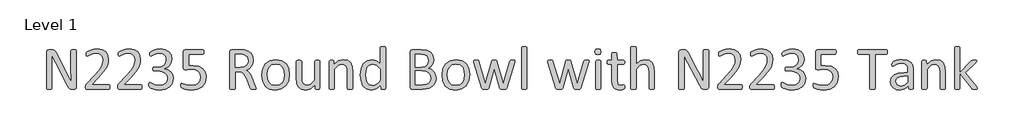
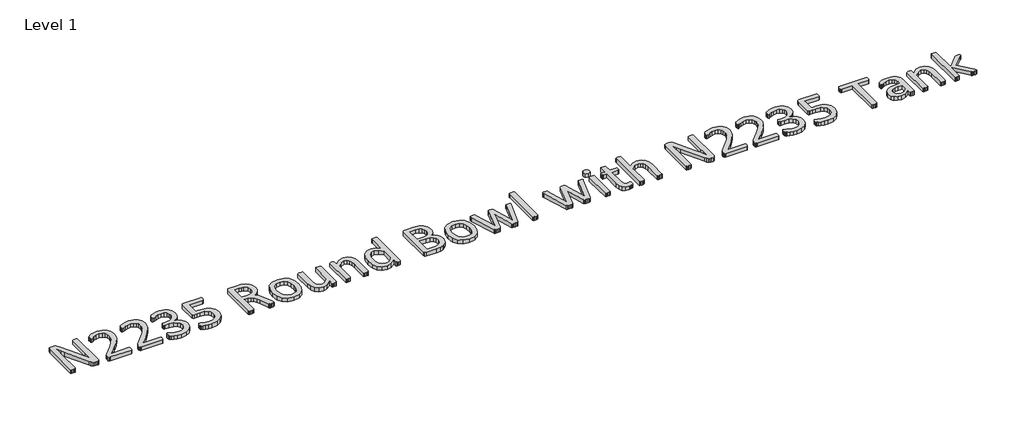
# One storey, part 2 of 2: 1 proxy.
"""IFC4 building model written with IfcOpenShell, lengths in millimetres."""

from ifc_helpers import new_model, si_unit, origin, origin_with_axes, place, context, project, spatial, polyline, outline, extrude, element, save

model = new_model("IFC4")

# Units and contexts
model_context = context("Model", 3, world=origin())
ifc_project = project(units=[si_unit("LENGTHUNIT", "METRE", prefix="MILLI")], contexts=[model_context])

# Site, building, storey
site = spatial("IfcSite", under=ifc_project)
building = spatial("IfcBuilding", under=site)
storey = spatial("IfcBuildingStorey", under=building, Name="Level 1", Elevation=0.0)

# Proxy
placement = place(None, origin())
element("IfcBuildingElementProxy", 1, Name="150MM CALIBRI", ObjectType="150MM CALIBRI", at=placement, inside=storey, context=model_context, shape_type="SweptSolid", body=[
    extrude(outline(polyline([(23872.4540605, -15562.9206541), (23871.6696087, -15566.7980875), (23869.6300339, -15569.4428109), (23866.8060072, -15570.9444758), (23863.7130257, -15571.392734), (23857.0788044, -15571.392734), (23851.6324673, -15570.7427597), (23847.1947111, -15568.3669912), (23843.003497, -15563.6826931), (23838.6105667, -15556.241607), (23794.2330052, -15471.7897627), (23787.2401773, -15458.0730619), (23780.6507818, -15444.132232), (23780.6507818, -15460.9867402), (23780.6507818, -15478.1102033), (23780.6507818, -15567.7170168), (23780.1576978, -15569.2635076), (23778.4991425, -15570.406566), (23775.4285738, -15571.1013662), (23770.5649724, -15571.392734), (23765.6789581, -15571.1013662), (23762.6532152, -15570.406566), (23761.0618986, -15569.2635076), (23760.5688146, -15567.7170168), (23760.5688146, -15430.6844861), (23763.213538, -15424.1623293), (23768.9960687, -15422.2124062), (23778.9025749, -15422.2124062), (23784.7523443, -15422.7951418), (23788.9659714, -15424.6778263), (23792.5744499, -15428.3311306), (23796.1605154, -15434.2257258), (23830.2281384, -15499.4472935), (23836.3244499, -15511.1020066), (23841.9500902, -15522.2860486), (23847.3291886, -15533.1338969), (23852.5962224, -15543.8696808), (23852.439332, -15525.0428365), (23852.3720933, -15506.2159922), (23852.3720933, -15425.8881234), (23854.5237326, -15423.1761613), (23857.5943013, -15422.4365353), (23862.5923802, -15422.2124062), (23867.2990912, -15422.4365353), (23870.3696599, -15423.1761613), (23871.9609765, -15424.3864584), (23872.4540605, -15562.9206541)])), origin_with_axes(), (0.0, 0.0, 1.0), 15.0),
    extrude(outline(polyline([(23998.6835687, -15562.6516992), (23998.3922009, -15566.439481), (23997.607749, -15569.1962689), (23996.2629744, -15570.8548242), (23994.38029, -15571.392734), (23913.3352081, -15571.392734), (23910.5784201, -15570.9893017), (23908.5388453, -15569.6445271), (23907.2837224, -15566.932565), (23906.88029, -15562.6068734), (23907.0595933, -15558.482898), (23907.8216322, -15555.3675035), (23909.3008843, -15552.6555414), (23911.6318269, -15549.786689), (23941.3065195, -15518.5879185), (23957.7800083, -15499.6938355), (23967.3727337, -15484.4754697), (23971.8104898, -15472.0138918), (23972.8638966, -15461.4798242), (23971.2053412, -15451.8870988), (23966.4089785, -15443.9529287), (23958.5420472, -15438.5514174), (23947.6717859, -15436.5566685), (23934.7619499, -15438.3721142), (23924.6985533, -15442.2943734), (23917.4815964, -15446.2166326), (23913.1559048, -15448.0320783), (23910.6456589, -15446.1493939), (23909.9956845, -15443.5046705), (23909.7491425, -15439.5151726), (23909.861207, -15436.668733), (23910.2646394, -15434.5619195), (23911.0042654, -15432.9257771), (23912.842124, -15430.9982668), (23917.5936609, -15427.8380465), (23926.0433279, -15423.9157873), (23937.2721958, -15420.6659154), (23950.137206, -15419.3435537), (23968.9640503, -15422.4141224), (23982.3669703, -15430.8189635), (23990.3235533, -15443.2133027), (23992.9458638, -15458.2523652), (23991.6683279, -15472.4397371), (23986.2668167, -15487.7029287), (23974.3431486, -15505.9694502), (23953.6784458, -15529.1219861), (23929.8311097, -15554.1796193), (23994.2009867, -15554.1796193), (23995.9940195, -15554.7175291), (23997.4732716, -15556.3088457), (23998.3922009, -15558.9535691), (23998.6835687, -15562.6516992)])), origin_with_axes(), (0.0, 0.0, 1.0), 15.0),
    extrude(outline(polyline([(24119.175372, -15562.6516992), (24118.8840042, -15566.439481), (24118.0995523, -15569.1962689), (24116.7547777, -15570.8548242), (24114.8720933, -15571.392734), (24033.8270113, -15571.392734), (24031.0702234, -15570.9893017), (24029.0306486, -15569.6445271), (24027.7755257, -15566.932565), (24027.3720933, -15562.6068734), (24027.5513966, -15558.482898), (24028.3134355, -15555.3675035), (24029.7926876, -15552.6555414), (24032.1236302, -15549.786689), (24061.7983228, -15518.5879185), (24078.2718115, -15499.6938355), (24087.8645369, -15484.4754697), (24092.3022931, -15472.0138918), (24093.3556999, -15461.4798242), (24091.6971445, -15451.8870988), (24086.9007818, -15443.9529287), (24079.0338505, -15438.5514174), (24068.1635892, -15436.5566685), (24055.2537531, -15438.3721142), (24045.1903566, -15442.2943734), (24037.9733996, -15446.2166326), (24033.6477081, -15448.0320783), (24031.1374621, -15446.1493939), (24030.4874878, -15443.5046705), (24030.2409458, -15439.5151726), (24030.3530103, -15436.668733), (24030.7564427, -15434.5619195), (24031.4960687, -15432.9257771), (24033.3339273, -15430.9982668), (24038.0854642, -15427.8380465), (24046.5351312, -15423.9157873), (24057.763999, -15420.6659154), (24070.6290093, -15419.3435537), (24089.4558535, -15422.4141224), (24102.8587736, -15430.8189635), (24110.8153566, -15443.2133027), (24113.4376671, -15458.2523652), (24112.1601312, -15472.4397371), (24106.7586199, -15487.7029287), (24094.8349519, -15505.9694502), (24074.170249, -15529.1219861), (24050.322913, -15554.1796193), (24114.69279, -15554.1796193), (24116.4858228, -15554.7175291), (24117.9650749, -15556.3088457), (24118.8840042, -15558.9535691), (24119.175372, -15562.6516992)])), origin_with_axes(), (0.0, 0.0, 1.0), 15.0),
    extrude(outline(polyline([(24236.7983228, -15529.3461152), (24233.279496, -15547.8815916), (24223.2160994, -15562.0241377), (24207.0339785, -15571.0789533), (24185.293456, -15574.2615865), (24171.5319294, -15573.0288765), (24160.1461712, -15570.0703724), (24151.8982203, -15566.5291326), (24147.7742449, -15563.8844092), (24146.4742962, -15562.2258539), (24145.6898443, -15560.208692), (24145.1743474, -15557.3174267), (24144.9950441, -15553.1486254), (24145.8019089, -15547.2316172), (24148.1328515, -15545.5730619), (24152.234414, -15547.3885076), (24160.1237583, -15551.3107668), (24171.375039, -15555.233026), (24185.6520626, -15557.0484717), (24199.0998085, -15555.0761357), (24208.8270113, -15549.5401469), (24214.7440195, -15541.068067), (24216.7163556, -15530.377109), (24214.1836968, -15518.9241121), (24206.7874365, -15510.1606644), (24194.7965298, -15504.5126111), (24178.6144089, -15502.540275), (24164.1804949, -15502.540275), (24162.3426363, -15502.1816685), (24160.7961456, -15500.9713713), (24159.7427388, -15498.7524933), (24159.3393064, -15495.1440148), (24159.697913, -15491.849317), (24160.7064939, -15489.7200906), (24162.185746, -15488.5546193), (24164.0908433, -15488.1960127), (24177.4489376, -15488.1960127), (24191.501832, -15486.2012638), (24202.0358996, -15480.4411459), (24208.670121, -15471.4535691), (24210.9786507, -15459.7764431), (24209.4321599, -15450.833692), (24204.7926876, -15443.3701931), (24196.8809304, -15438.3721142), (24185.78654, -15436.5566685), (24173.123246, -15438.3721142), (24162.8357203, -15442.2943734), (24155.3498085, -15446.2166326), (24151.1810072, -15448.0320783), (24148.0431999, -15444.2218836), (24147.8638966, -15440.1875599), (24147.9759611, -15437.161817), (24148.4466322, -15434.8757002), (24149.2759099, -15433.1274933), (24150.8448136, -15431.2448088), (24155.3049826, -15428.1070015), (24163.6201722, -15424.0726777), (24175.0283433, -15420.7107412), (24188.9243474, -15419.3435537), (24207.3253464, -15422.0331029), (24220.5265503, -15429.6534922), (24228.4383074, -15441.4426828), (24231.0606179, -15456.6386357), (24229.2003464, -15469.9519041), (24223.7540093, -15480.8445783), (24214.9681486, -15488.9356388), (24202.954829, -15493.5751111), (24216.6491169, -15497.6766736), (24227.3176619, -15505.3643017), (24234.2880769, -15516.1449113), (24236.7983228, -15529.3461152)])), origin_with_axes(), (0.0, 0.0, 1.0), 15.0),
    extrude(outline(polyline([(24360.1589785, -15524.7738816), (24356.1022419, -15545.8196039), (24344.626832, -15561.3517504), (24326.9654591, -15570.9668888), (24304.1715298, -15574.2615865), (24290.9703259, -15573.2754185), (24279.8535226, -15570.8324113), (24271.8521138, -15567.9859717), (24267.8626158, -15565.7670937), (24266.6523187, -15564.2430158), (24266.0023443, -15562.5620476), (24265.5989119, -15560.0742146), (24265.4868474, -15556.4657361), (24265.6661507, -15552.9244963), (24266.3161251, -15550.3694246), (24267.4367706, -15548.9125855), (24272.5245011, -15549.786689), (24279.1587224, -15552.7003672), (24289.4910738, -15555.6588713), (24304.126704, -15557.0484717), (24318.5830308, -15555.233026), (24329.9015503, -15549.517734), (24337.3650492, -15539.7457053), (24340.0770113, -15525.4462689), (24337.8133074, -15512.9398652), (24330.8653054, -15503.9298754), (24318.9864632, -15498.57319), (24301.7957613, -15496.8025701), (24289.6255513, -15497.4973703), (24280.1448904, -15498.1921705), (24275.4830052, -15496.6905056), (24274.0934048, -15490.8855619), (24274.0934048, -15429.7431439), (24275.8864376, -15424.0726777), (24281.0414068, -15422.2124062), (24347.1594908, -15422.2124062), (24348.9525236, -15422.7279031), (24350.3869499, -15424.2743939), (24351.2610533, -15426.9191172), (24351.5524212, -15430.6844861), (24350.4541886, -15437.1394041), (24347.3836199, -15439.4255209), (24294.175372, -15439.4255209), (24294.175372, -15483.2651726), (24302.0423033, -15482.5703724), (24311.2988351, -15482.4583078), (24332.6135124, -15485.4840506), (24347.8094652, -15494.0233693), (24357.0211712, -15507.3814635), (24360.1589785, -15524.7738816)])), origin_with_axes(), (0.0, 0.0, 1.0), 15.0),
    extrude(outline(polyline([(24547.5757306, -15567.7618426), (24547.2395369, -15569.3307463), (24545.7602849, -15570.4738047), (24542.5328259, -15571.1686049), (24536.9968371, -15571.392734), (24532.1332357, -15571.1686049), (24529.08508, -15570.4289789), (24527.3144601, -15569.0169656), (24526.2386404, -15566.7308488), (24512.5667654, -15532.2149676), (24507.6135124, -15521.4119451), (24501.6068525, -15512.9174523), (24493.4261404, -15507.3814635), (24482.0852081, -15505.4091275), (24469.175372, -15505.4091275), (24469.175372, -15567.7618426), (24468.6598751, -15569.3531592), (24467.0237326, -15570.4289789), (24463.9755769, -15571.1013662), (24459.1343884, -15571.392734), (24454.2931999, -15571.1013662), (24451.2002183, -15570.406566), (24449.5640759, -15569.3307463), (24449.0934048, -15567.7170168), (24449.0934048, -15430.2362279), (24451.4019345, -15423.983026), (24456.3551876, -15422.2124062), (24487.4643064, -15422.2124062), (24496.6535994, -15422.503774), (24503.2878208, -15423.1537484), (24518.2820574, -15427.8604594), (24529.2195574, -15436.0635844), (24535.8313658, -15447.4493426), (24538.027831, -15461.5694758), (24536.0779078, -15475.0172217), (24530.4298546, -15485.5288765), (24521.5767552, -15493.4182207), (24510.0116937, -15499.0886869), (24516.6907408, -15503.1454236), (24522.2715554, -15509.017606), (24527.1351568, -15516.8845373), (24531.7522162, -15526.9255209), (24545.0654847, -15559.4242402), (24547.1274724, -15565.1619451), (24547.5757306, -15567.7618426)]), holes=[polyline([(24517.9458638, -15463.7211152), (24514.1132562, -15449.3320271), (24501.2258331, -15440.8599472), (24494.8605667, -15439.7617146), (24485.5367962, -15439.4255209), (24469.175372, -15439.4255209), (24469.175372, -15488.1960127), (24488.1366937, -15488.1960127), (24501.4051363, -15486.3581541), (24510.7289068, -15481.2031849), (24516.1976568, -15473.4259051), (24517.9458638, -15463.7211152)])]), origin_with_axes(), (0.0, 0.0, 1.0), 15.0),
    extrude(outline(polyline([(24672.8638966, -15515.7638918), (24669.5467859, -15539.2750342), (24659.6178669, -15557.7880978), (24643.0771394, -15569.913482), (24620.059081, -15574.2615865), (24597.8703003, -15570.4289789), (24582.0916117, -15559.2897627), (24572.6781896, -15541.5387381), (24569.5852081, -15517.8707053), (24572.8574929, -15494.3595629), (24582.7191732, -15475.8689123), (24599.1926619, -15463.8107668), (24622.2555462, -15459.5074881), (24644.4667398, -15463.3400957), (24660.2454283, -15474.4793119), (24669.7036763, -15492.2303365), (24672.8638966, -15515.7638918)]), holes=[polyline([(24652.7819294, -15517.1086664), (24651.2354386, -15501.5316941), (24646.1477081, -15488.6666838), (24636.5773956, -15479.925649), (24621.4935072, -15476.7206029), (24607.1716578, -15479.6566941), (24597.3099775, -15487.9494707), (24591.5498597, -15500.6351777), (24589.6671753, -15516.6604082), (24591.213666, -15532.3270322), (24596.3462224, -15545.1472166), (24605.9837736, -15553.8434256), (24621.045249, -15557.0484717), (24635.3222726, -15554.1123806), (24645.2511917, -15545.8868426), (24650.9664837, -15533.2459615), (24652.7819294, -15517.1086664)])]), origin_with_axes(), (0.0, 0.0, 1.0), 15.0),
    extrude(outline(polyline([(24787.6179949, -15567.8963201), (24785.6904847, -15570.4962176), (24782.8440451, -15571.1686049), (24778.5631794, -15571.392734), (24773.9909458, -15571.1686049), (24771.2117449, -15570.4962176), (24769.8221445, -15569.420398), (24769.463538, -15554.4037484), (24752.2728361, -15569.5100496), (24735.0821343, -15574.2615865), (24717.9586712, -15570.8099984), (24706.7073904, -15561.463815), (24700.5438402, -15547.7022883), (24698.6835687, -15528.5840763), (24698.6835687, -15465.9175803), (24700.7455564, -15463.2504441), (24703.8833638, -15462.5556439), (24708.7245523, -15462.3763406), (24713.5657408, -15462.5556439), (24716.6363095, -15463.2280312), (24718.2724519, -15464.3486767), (24718.7655359, -15465.9175803), (24718.7655359, -15525.4462689), (24720.0206589, -15539.8129441), (24723.8756794, -15549.02465), (24730.420249, -15554.9416582), (24739.6543679, -15557.0484717), (24753.2141783, -15552.005567), (24767.5360277, -15537.1906336), (24767.5360277, -15465.8727545), (24769.5980154, -15463.2280312), (24772.690997, -15462.5556439), (24777.5770113, -15462.3763406), (24782.4181999, -15462.5556439), (24785.4439427, -15463.2280312), (24787.0800851, -15464.3486767), (24787.6179949, -15465.8727545), (24787.6179949, -15567.8963201)])), origin_with_axes(), (0.0, 0.0, 1.0), 15.0),
    extrude(outline(polyline([(24910.9786507, -15567.8514943), (24910.4855667, -15569.3755722), (24908.8942501, -15570.4738047), (24905.8685072, -15571.1686049), (24900.9824929, -15571.392734), (24896.0068269, -15571.1686049), (24892.9810841, -15570.4962176), (24891.3897675, -15569.420398), (24890.8966835, -15567.8514943), (24890.8966835, -15507.9641992), (24889.5743218, -15493.8888918), (24885.7417142, -15484.6771859), (24879.2195574, -15478.7601777), (24869.9630257, -15476.7206029), (24856.3583894, -15481.7186818), (24842.1261917, -15496.3991377), (24842.1261917, -15567.8514943), (24841.6331076, -15569.420398), (24840.041791, -15570.4962176), (24837.0160482, -15571.1686049), (24832.0403822, -15571.392734), (24827.1543679, -15571.1686049), (24824.0613863, -15570.4962176), (24822.4700697, -15569.420398), (24822.0442244, -15465.8727545), (24823.8596701, -15463.2280312), (24826.6612839, -15462.5556439), (24831.1886917, -15462.3763406), (24835.6264478, -15462.5556439), (24838.3608228, -15463.2280312), (24839.7728361, -15464.3486767), (24840.1986814, -15479.3653263), (24857.3445574, -15464.2814379), (24874.5800851, -15459.5074881), (24891.7035482, -15463.0039021), (24902.954829, -15472.3500855), (24909.1183792, -15486.0443734), (24910.9786507, -15504.9160435), (24910.9786507, -15567.8514943)])), origin_with_axes(), (0.0, 0.0, 1.0), 15.0),
    extrude(outline(polyline([(25034.3393064, -15567.8066685), (25033.9134611, -15569.4428109), (25032.456622, -15570.5410435), (25029.7446599, -15571.1686049), (25025.6430974, -15571.392734), (25021.3846445, -15571.1686049), (25018.6054437, -15570.5858693), (25017.03654, -15569.5772883), (25016.543456, -15555.3450906), (24999.890664, -15569.2635076), (24980.996581, -15574.2615865), (24961.9007818, -15569.8014174), (24949.1030103, -15557.7432719), (24941.9308792, -15539.8577699), (24939.6671753, -15518.2293119), (24942.4912019, -15493.9113047), (24950.8288044, -15475.3982412), (24964.5006794, -15463.6314635), (24983.3723494, -15459.5074881), (24999.6665349, -15463.519399), (25014.2573392, -15475.2861767), (25014.2573392, -15414.4575394), (25014.6831845, -15412.8886357), (25016.3193269, -15411.7231644), (25019.4123085, -15411.0283642), (25024.1638453, -15410.7369963), (25029.1395113, -15411.0283642), (25032.1652542, -15411.7231644), (25033.8013966, -15412.8662228), (25034.3393064, -15414.4127135), (25034.3393064, -15567.8066685)]), holes=[polyline([(25014.2573392, -15495.7267504), (24999.8682511, -15481.5842043), (24985.3895113, -15476.7206029), (24973.5106691, -15480.1273652), (24965.576499, -15489.114942), (24961.1387429, -15501.7558232), (24959.7491425, -15516.0776726), (24960.9146138, -15531.2287996), (24964.9713505, -15544.3627648), (24972.6365656, -15553.5744707), (24984.6274724, -15557.0484717), (24991.6651261, -15556.0398908), (24998.6131281, -15552.7003672), (25006.0318013, -15546.6488816), (25014.2573392, -15537.4595885), (25014.2573392, -15495.7267504)])]), origin_with_axes(), (0.0, 0.0, 1.0), 15.0),
    extrude(outline(polyline([(25223.6835687, -15529.2116377), (25221.9129488, -15541.9869963), (25216.9372828, -15552.521064), (25209.2272419, -15560.701776), (25199.0517808, -15566.6187842), (25186.9263966, -15570.2048498), (25172.1338761, -15571.392734), (25133.4491937, -15571.392734), (25128.4959406, -15569.5997013), (25126.1425851, -15563.3240865), (25126.1425851, -15430.2810537), (25128.5183535, -15424.005439), (25133.5388453, -15422.2124062), (25167.427165, -15422.2124062), (25189.3694037, -15424.7898908), (25203.6016015, -15432.2758027), (25212.185746, -15444.3339482), (25215.0770113, -15460.4936562), (25213.7994755, -15470.7811818), (25210.0565195, -15479.8584103), (25203.8257306, -15487.2994963), (25195.2191732, -15492.6785947), (25206.3359765, -15496.824983), (25215.3459662, -15504.5126111), (25221.4422777, -15515.4276982), (25223.6835687, -15529.2116377)]), holes=[polyline([(25194.9950441, -15463.1832053), (25193.4933792, -15453.2766992), (25188.7866681, -15445.7683744), (25180.4042398, -15441.0616633), (25166.7099519, -15439.4255209), (25146.2245523, -15439.4255209), (25146.2245523, -15488.1960127), (25168.7719396, -15488.1960127), (25181.1886917, -15486.1564379), (25189.0107972, -15480.6876879), (25193.5606179, -15472.6638662), (25194.9950441, -15463.1832053)]), polyline([(25203.6016015, -15529.390941), (25201.494788, -15517.8258795), (25195.3312378, -15509.4434513), (25185.1557767, -15504.288482), (25169.7581076, -15502.540275), (25146.2245523, -15502.540275), (25146.2245523, -15554.1796193), (25174.7785994, -15554.1796193), (25186.56779, -15552.5883027), (25195.4208894, -15547.8815916), (25201.4275492, -15540.1267248), (25203.6016015, -15529.390941)])]), origin_with_axes(), (0.0, 0.0, 1.0), 15.0),
    extrude(outline(polyline([(25349.9130769, -15515.7638918), (25346.5959662, -15539.2750342), (25336.6670472, -15557.7880978), (25320.1263197, -15569.913482), (25297.1082613, -15574.2615865), (25274.9194806, -15570.4289789), (25259.1407921, -15559.2897627), (25249.7273699, -15541.5387381), (25246.6343884, -15517.8707053), (25249.9066732, -15494.3595629), (25259.7683535, -15475.8689123), (25276.2418423, -15463.8107668), (25299.3047265, -15459.5074881), (25321.5159201, -15463.3400957), (25337.2946087, -15474.4793119), (25346.7528566, -15492.2303365), (25349.9130769, -15515.7638918)]), holes=[polyline([(25329.8311097, -15517.1086664), (25328.2846189, -15501.5316941), (25323.1968884, -15488.6666838), (25313.6265759, -15479.925649), (25298.5426876, -15476.7206029), (25284.2208382, -15479.6566941), (25274.3591578, -15487.9494707), (25268.59904, -15500.6351777), (25266.7163556, -15516.6604082), (25268.2628464, -15532.3270322), (25273.3954027, -15545.1472166), (25283.032954, -15553.8434256), (25298.0944294, -15557.0484717), (25312.3714529, -15554.1123806), (25322.300372, -15545.8868426), (25328.015664, -15533.2459615), (25329.8311097, -15517.1086664)])]), origin_with_axes(), (0.0, 0.0, 1.0), 15.0),
    extrude(outline(polyline([(25520.3856691, -15465.6486254), (25520.16154, -15467.5985486), (25519.3546753, -15470.4001623), (25488.9179437, -15567.3135844), (25487.8197111, -15569.3531592), (25485.7577234, -15570.5858693), (25482.1492449, -15571.2134308), (25476.41154, -15571.392734), (25470.4272931, -15571.1686049), (25466.5946855, -15570.4962176), (25464.4654591, -15569.2859205), (25463.4120523, -15567.4032361), (25441.7163556, -15494.9198857), (25421.3654335, -15567.4032361), (25420.2896138, -15569.3979851), (25418.0483228, -15570.6306951), (25414.2157152, -15571.2358437), (25408.4107716, -15571.392734), (25402.583415, -15571.1686049), (25398.9076978, -15570.4962176), (25396.8008843, -15569.2410947), (25395.7698904, -15567.3135844), (25365.557288, -15470.4001623), (25364.7504232, -15467.5985486), (25364.5262941, -15465.6486254), (25364.9745523, -15464.0348959), (25366.5210431, -15463.0039021), (25369.4571343, -15462.4884051), (25373.9397162, -15462.3763406), (25379.1170984, -15462.5556439), (25382.0980154, -15463.1159666), (25383.5772675, -15464.2366121), (25384.3841322, -15466.007232), (25409.307288, -15550.279773), (25432.6167142, -15466.007232), (25433.401166, -15464.2366121), (25434.9476568, -15463.1159666), (25437.7492706, -15462.5556439), (25442.1646138, -15462.3763406), (25446.7144345, -15462.5556439), (25449.5160482, -15463.1159666), (25451.0177132, -15464.1917863), (25451.7125134, -15465.7831029), (25476.41154, -15550.279773), (25501.3346958, -15466.007232), (25502.0743218, -15464.2366121), (25503.6880513, -15463.1159666), (25506.6689683, -15462.5556439), (25511.5549826, -15462.3763406), (25515.9703259, -15462.4884051), (25518.6150492, -15463.0487279), (25519.9822367, -15464.0797217), (25520.3856691, -15465.6486254)])), origin_with_axes(), (0.0, 0.0, 1.0), 15.0),
    extrude(outline(polyline([(25565.0770113, -15567.8514943), (25564.5839273, -15569.3755722), (25562.9926107, -15570.4738047), (25559.9668679, -15571.1686049), (25554.9912019, -15571.392734), (25550.1051876, -15571.1686049), (25547.012206, -15570.4738047), (25545.4208894, -15569.3755722), (25545.4208894, -15414.4127135), (25545.4208894, -15412.798984), (25547.012206, -15411.6559256), (25550.1051876, -15410.9611254), (25554.9912019, -15410.7369963), (25559.9668679, -15410.9611254), (25562.9926107, -15411.6559256), (25564.5839273, -15412.798984), (25565.0770113, -15414.4127135), (25565.0770113, -15567.8514943)])), origin_with_axes(), (0.0, 0.0, 1.0), 15.0),
    extrude(outline(polyline([(25798.6643576, -15465.6486254), (25798.4402285, -15467.5985486), (25797.6333638, -15470.4001623), (25767.1966322, -15567.3135844), (25766.0983996, -15569.3531592), (25764.0364119, -15570.5858693), (25760.4279335, -15571.2134308), (25754.6902285, -15571.392734), (25748.7059816, -15571.1686049), (25744.873374, -15570.4962176), (25742.7441476, -15569.2859205), (25741.6907408, -15567.4032361), (25719.9950441, -15494.9198857), (25699.644122, -15567.4032361), (25698.5683023, -15569.3979851), (25696.3270113, -15570.6306951), (25692.4944037, -15571.2358437), (25686.6894601, -15571.392734), (25680.8621035, -15571.1686049), (25677.1863863, -15570.4962176), (25675.0795728, -15569.2410947), (25674.048579, -15567.3135844), (25643.8359765, -15470.4001623), (25643.0291117, -15467.5985486), (25642.8049826, -15465.6486254), (25643.2532408, -15464.0348959), (25644.7997316, -15463.0039021), (25647.7358228, -15462.4884051), (25652.2184048, -15462.3763406), (25657.3957869, -15462.5556439), (25660.376704, -15463.1159666), (25661.855956, -15464.2366121), (25662.6628208, -15466.007232), (25687.5859765, -15550.279773), (25710.8954027, -15466.007232), (25711.6798546, -15464.2366121), (25713.2263453, -15463.1159666), (25716.0279591, -15462.5556439), (25720.4433023, -15462.3763406), (25724.993123, -15462.5556439), (25727.7947367, -15463.1159666), (25729.2964017, -15464.1917863), (25729.9912019, -15465.7831029), (25754.6902285, -15550.279773), (25779.6133843, -15466.007232), (25780.3530103, -15464.2366121), (25781.9667398, -15463.1159666), (25784.9476568, -15462.5556439), (25789.8336712, -15462.3763406), (25794.2490144, -15462.4884051), (25796.8937378, -15463.0487279), (25798.2609253, -15464.0797217), (25798.6643576, -15465.6486254)])), origin_with_axes(), (0.0, 0.0, 1.0), 15.0),
    extrude(outline(polyline([(25843.3556999, -15567.8963201), (25842.8626158, -15569.420398), (25841.2712992, -15570.4962176), (25838.2455564, -15571.1686049), (25833.2698904, -15571.392734), (25828.3838761, -15571.1686049), (25825.2908945, -15570.4962176), (25823.6995779, -15569.420398), (25823.2737326, -15465.8727545), (25825.2908945, -15463.272857), (25828.3838761, -15462.6004697), (25833.2698904, -15462.3763406), (25838.2455564, -15462.6004697), (25841.2712992, -15463.272857), (25842.8626158, -15464.4159154), (25843.3556999, -15567.8963201)])), origin_with_axes(), (0.0, 0.0, 1.0), 15.0),
    extrude(outline(polyline([(25843.3556999, -15430.6844861), (25840.8902798, -15439.8513662), (25831.7458126, -15442.2943734), (25822.8254744, -15439.9186049), (25820.4048802, -15430.953441), (25822.8703003, -15421.7865609), (25832.0147675, -15419.3435537), (25840.9351056, -15421.7193222), (25843.3556999, -15430.6844861)])), origin_with_axes(), (0.0, 0.0, 1.0), 15.0),
    extrude(outline(polyline([(25932.2901261, -15561.0827955), (25931.8418679, -15566.686023), (25930.4746804, -15569.7341787), (25927.7403054, -15571.5720373), (25923.5939171, -15572.9840506), (25918.640664, -15573.9029799), (25913.418456, -15574.2615865), (25899.7689939, -15572.0875342), (25890.4676363, -15565.5205517), (25885.1781896, -15554.3813355), (25883.5196343, -15538.4457566), (25883.5196343, -15476.7206029), (25869.8925851, -15476.7206029), (25867.2702746, -15475.0396347), (25866.3065195, -15469.5932976), (25866.5754744, -15466.253774), (25867.2702746, -15463.9900701), (25868.4133331, -15462.7349472), (25869.9822367, -15462.3763406), (25883.5196343, -15462.3763406), (25883.5196343, -15437.408359), (25885.5367962, -15434.673984), (25888.6297777, -15433.9119451), (25893.5157921, -15433.687816), (25898.4914581, -15433.9119451), (25901.5172009, -15434.673984), (25903.1085175, -15435.9066941), (25903.6016015, -15462.3763406), (25928.7040605, -15462.3763406), (25931.3487839, -15463.9900701), (25932.065997, -15466.253774), (25932.2901261, -15469.5932976), (25931.3039581, -15475.0396347), (25928.7040605, -15476.7206029), (25903.6016015, -15476.7206029), (25903.6016015, -15535.1734717), (25906.5825185, -15551.512483), (25910.7457165, -15555.6644746), (25917.2734765, -15557.0484717), (25921.7336456, -15556.5329748), (25925.2076466, -15555.4571551), (25927.829957, -15554.3589226), (25929.7798802, -15553.8210127), (25932.065997, -15557.4519041), (25932.2901261, -15561.0827955)])), origin_with_axes(), (0.0, 0.0, 1.0), 15.0),
    extrude(outline(polyline([(26044.175372, -15567.8514943), (26043.682288, -15569.3755722), (26042.0909714, -15570.4738047), (26039.0652285, -15571.1686049), (26034.1792142, -15571.392734), (26029.2035482, -15571.1686049), (26026.1778054, -15570.4962176), (26024.5864888, -15569.420398), (26024.0934048, -15567.8514943), (26024.0934048, -15507.9641992), (26022.7710431, -15493.8888918), (26018.9384355, -15484.6771859), (26012.4162787, -15478.7601777), (26003.159747, -15476.7206029), (25989.5551107, -15481.7186818), (25975.322913, -15496.3991377), (25975.322913, -15567.8514943), (25974.829829, -15569.420398), (25973.2385124, -15570.4962176), (25970.2127695, -15571.1686049), (25965.2371035, -15571.392734), (25960.3510892, -15571.1686049), (25957.2581076, -15570.4738047), (25955.666791, -15569.3755722), (25955.666791, -15414.4127135), (25955.666791, -15412.798984), (25957.2581076, -15411.6559256), (25960.3510892, -15410.9611254), (25965.2371035, -15410.7369963), (25970.2127695, -15410.9611254), (25973.2385124, -15411.6559256), (25974.829829, -15412.8213969), (25975.322913, -15414.4127135), (25975.322913, -15476.451648), (25991.4602081, -15463.6762894), (26007.8216322, -15459.5074881), (26024.9450953, -15463.0039021), (26036.1739632, -15472.3500855), (26042.3151005, -15486.0443734), (26044.175372, -15505.0056951), (26044.175372, -15567.8514943)])), origin_with_axes(), (0.0, 0.0, 1.0), 15.0),
    extrude(outline(polyline([(26247.8638966, -15562.9206541), (26247.0794447, -15566.7980875), (26245.0398699, -15569.4428109), (26242.2158433, -15570.9444758), (26239.1228617, -15571.392734), (26232.4886404, -15571.392734), (26227.0423033, -15570.7427597), (26222.6045472, -15568.3669912), (26218.4133331, -15563.6826931), (26214.0204027, -15556.241607), (26169.6428412, -15471.7897627), (26162.6500134, -15458.0730619), (26156.0606179, -15444.132232), (26156.0606179, -15460.9867402), (26156.0606179, -15478.1102033), (26156.0606179, -15567.7170168), (26155.5675339, -15569.2635076), (26153.9089785, -15570.406566), (26150.8384099, -15571.1013662), (26145.9748085, -15571.392734), (26141.0887941, -15571.1013662), (26138.0630513, -15570.406566), (26136.4717347, -15569.2635076), (26135.9786507, -15567.7170168), (26135.9786507, -15430.6844861), (26138.623374, -15424.1623293), (26144.4059048, -15422.2124062), (26154.3124109, -15422.2124062), (26160.1621804, -15422.7951418), (26164.3758074, -15424.6778263), (26167.9842859, -15428.3311306), (26171.5703515, -15434.2257258), (26205.6379744, -15499.4472935), (26211.7342859, -15511.1020066), (26217.3599263, -15522.2860486), (26222.7390246, -15533.1338969), (26228.0060585, -15543.8696808), (26227.8491681, -15525.0428365), (26227.7819294, -15506.2159922), (26227.7819294, -15425.8881234), (26229.9335687, -15423.1761613), (26233.0041374, -15422.4365353), (26238.0022162, -15422.2124062), (26242.7089273, -15422.4365353), (26245.779496, -15423.1761613), (26247.3708126, -15424.3864584), (26247.8638966, -15562.9206541)])), origin_with_axes(), (0.0, 0.0, 1.0), 15.0),
    extrude(outline(polyline([(26374.0934048, -15562.6516992), (26373.8020369, -15566.439481), (26373.0175851, -15569.1962689), (26371.6728105, -15570.8548242), (26369.7901261, -15571.392734), (26288.7450441, -15571.392734), (26285.9882562, -15570.9893017), (26283.9486814, -15569.6445271), (26282.6935585, -15566.932565), (26282.2901261, -15562.6068734), (26282.4694294, -15558.482898), (26283.2314683, -15555.3675035), (26284.7107203, -15552.6555414), (26287.041663, -15549.786689), (26316.7163556, -15518.5879185), (26333.1898443, -15499.6938355), (26342.7825697, -15484.4754697), (26347.2203259, -15472.0138918), (26348.2737326, -15461.4798242), (26346.6151773, -15451.8870988), (26341.8188146, -15443.9529287), (26333.9518833, -15438.5514174), (26323.081622, -15436.5566685), (26310.1717859, -15438.3721142), (26300.1083894, -15442.2943734), (26292.8914324, -15446.2166326), (26288.5657408, -15448.0320783), (26286.0554949, -15446.1493939), (26285.4055206, -15443.5046705), (26285.1589785, -15439.5151726), (26285.2710431, -15436.668733), (26285.6744755, -15434.5619195), (26286.4141015, -15432.9257771), (26288.2519601, -15430.9982668), (26293.003497, -15427.8380465), (26301.453164, -15423.9157873), (26312.6820318, -15420.6659154), (26325.5470421, -15419.3435537), (26344.3738863, -15422.4141224), (26357.7768064, -15430.8189635), (26365.7333894, -15443.2133027), (26368.3556999, -15458.2523652), (26367.078164, -15472.4397371), (26361.6766527, -15487.7029287), (26349.7529847, -15505.9694502), (26329.0882818, -15529.1219861), (26305.2409458, -15554.1796193), (26369.6108228, -15554.1796193), (26371.4038556, -15554.7175291), (26372.8831076, -15556.3088457), (26373.8020369, -15558.9535691), (26374.0934048, -15562.6516992)])), origin_with_axes(), (0.0, 0.0, 1.0), 15.0),
    extrude(outline(polyline([(26494.5852081, -15562.6516992), (26494.2938402, -15566.439481), (26493.5093884, -15569.1962689), (26492.1646138, -15570.8548242), (26490.2819294, -15571.392734), (26409.2368474, -15571.392734), (26406.4800595, -15570.9893017), (26404.4404847, -15569.6445271), (26403.1853617, -15566.932565), (26402.7819294, -15562.6068734), (26402.9612326, -15558.482898), (26403.7232716, -15555.3675035), (26405.2025236, -15552.6555414), (26407.5334662, -15549.786689), (26437.2081589, -15518.5879185), (26453.6816476, -15499.6938355), (26463.274373, -15484.4754697), (26467.7121292, -15472.0138918), (26468.7655359, -15461.4798242), (26467.1069806, -15451.8870988), (26462.3106179, -15443.9529287), (26454.4436865, -15438.5514174), (26443.5734253, -15436.5566685), (26430.6635892, -15438.3721142), (26420.6001927, -15442.2943734), (26413.3832357, -15446.2166326), (26409.0575441, -15448.0320783), (26406.5472982, -15446.1493939), (26405.8973238, -15443.5046705), (26405.6507818, -15439.5151726), (26405.7628464, -15436.668733), (26406.1662787, -15434.5619195), (26406.9059048, -15432.9257771), (26408.7437634, -15430.9982668), (26413.4953003, -15427.8380465), (26421.9449673, -15423.9157873), (26433.1738351, -15420.6659154), (26446.0388453, -15419.3435537), (26464.8656896, -15422.4141224), (26478.2686097, -15430.8189635), (26486.2251927, -15443.2133027), (26488.8475031, -15458.2523652), (26487.5699673, -15472.4397371), (26482.168456, -15487.7029287), (26470.244788, -15505.9694502), (26449.5800851, -15529.1219861), (26425.732749, -15554.1796193), (26490.1026261, -15554.1796193), (26491.8956589, -15554.7175291), (26493.3749109, -15556.3088457), (26494.2938402, -15558.9535691), (26494.5852081, -15562.6516992)])), origin_with_axes(), (0.0, 0.0, 1.0), 15.0),
    extrude(outline(polyline([(26612.2081589, -15529.3461152), (26608.689332, -15547.8815916), (26598.6259355, -15562.0241377), (26582.4438146, -15571.0789533), (26560.7032921, -15574.2615865), (26546.9417654, -15573.0288765), (26535.5560072, -15570.0703724), (26527.3080564, -15566.5291326), (26523.184081, -15563.8844092), (26521.8841322, -15562.2258539), (26521.0996804, -15560.208692), (26520.5841835, -15557.3174267), (26520.4048802, -15553.1486254), (26521.2117449, -15547.2316172), (26523.5426876, -15545.5730619), (26527.6442501, -15547.3885076), (26535.5335943, -15551.3107668), (26546.7848751, -15555.233026), (26561.0618986, -15557.0484717), (26574.5096445, -15555.0761357), (26584.2368474, -15549.5401469), (26590.1538556, -15541.068067), (26592.1261917, -15530.377109), (26589.5935328, -15518.9241121), (26582.1972726, -15510.1606644), (26570.2063658, -15504.5126111), (26554.0242449, -15502.540275), (26539.590331, -15502.540275), (26537.7524724, -15502.1816685), (26536.2059816, -15500.9713713), (26535.1525749, -15498.7524933), (26534.7491425, -15495.1440148), (26535.107749, -15491.849317), (26536.11633, -15489.7200906), (26537.595582, -15488.5546193), (26539.5006794, -15488.1960127), (26552.8587736, -15488.1960127), (26566.9116681, -15486.2012638), (26577.4457357, -15480.4411459), (26584.079957, -15471.4535691), (26586.3884867, -15459.7764431), (26584.841996, -15450.833692), (26580.2025236, -15443.3701931), (26572.2907665, -15438.3721142), (26561.1963761, -15436.5566685), (26548.533082, -15438.3721142), (26538.2455564, -15442.2943734), (26530.7596445, -15446.2166326), (26526.5908433, -15448.0320783), (26523.4530359, -15444.2218836), (26523.2737326, -15440.1875599), (26523.3857972, -15437.161817), (26523.8564683, -15434.8757002), (26524.685746, -15433.1274933), (26526.2546496, -15431.2448088), (26530.7148187, -15428.1070015), (26539.0300083, -15424.0726777), (26550.4381794, -15420.7107412), (26564.3341835, -15419.3435537), (26582.7351824, -15422.0331029), (26595.9363863, -15429.6534922), (26603.8481435, -15441.4426828), (26606.470454, -15456.6386357), (26604.6101824, -15469.9519041), (26599.1638453, -15480.8445783), (26590.3779847, -15488.9356388), (26578.364665, -15493.5751111), (26592.0589529, -15497.6766736), (26602.727498, -15505.3643017), (26609.697913, -15516.1449113), (26612.2081589, -15529.3461152)])), origin_with_axes(), (0.0, 0.0, 1.0), 15.0),
    extrude(outline(polyline([(26735.5688146, -15524.7738816), (26731.5120779, -15545.8196039), (26720.0366681, -15561.3517504), (26702.3752951, -15570.9668888), (26679.5813658, -15574.2615865), (26666.3801619, -15573.2754185), (26655.2633587, -15570.8324113), (26647.2619499, -15567.9859717), (26643.2724519, -15565.7670937), (26642.0621548, -15564.2430158), (26641.4121804, -15562.5620476), (26641.008748, -15560.0742146), (26640.8966835, -15556.4657361), (26641.0759867, -15552.9244963), (26641.7259611, -15550.3694246), (26642.8466066, -15548.9125855), (26647.9343371, -15549.786689), (26654.5685585, -15552.7003672), (26664.9009099, -15555.6588713), (26679.53654, -15557.0484717), (26693.9928669, -15555.233026), (26705.3113863, -15549.517734), (26712.7748853, -15539.7457053), (26715.4868474, -15525.4462689), (26713.2231435, -15512.9398652), (26706.2751415, -15503.9298754), (26694.3962992, -15498.57319), (26677.2055974, -15496.8025701), (26665.0353874, -15497.4973703), (26655.5547265, -15498.1921705), (26650.8928412, -15496.6905056), (26649.5032408, -15490.8855619), (26649.5032408, -15429.7431439), (26651.2962736, -15424.0726777), (26656.4512429, -15422.2124062), (26722.5693269, -15422.2124062), (26724.3623597, -15422.7279031), (26725.7967859, -15424.2743939), (26726.6708894, -15426.9191172), (26726.9622572, -15430.6844861), (26725.8640246, -15437.1394041), (26722.793456, -15439.4255209), (26669.5852081, -15439.4255209), (26669.5852081, -15483.2651726), (26677.4521394, -15482.5703724), (26686.7086712, -15482.4583078), (26708.0233484, -15485.4840506), (26723.2193013, -15494.0233693), (26732.4310072, -15507.3814635), (26735.5688146, -15524.7738816)])), origin_with_axes(), (0.0, 0.0, 1.0), 15.0),
    extrude(outline(polyline([(26919.175372, -15430.953441), (26918.9512429, -15434.8308744), (26918.2116169, -15437.4755978), (26916.934081, -15438.9548498), (26915.2755257, -15439.4255209), (26873.2737326, -15439.4255209), (26873.2737326, -15567.7170168), (26872.8030615, -15569.3307463), (26871.1669191, -15570.406566), (26868.0739376, -15571.1013662), (26863.232749, -15571.392734), (26858.4363863, -15571.1013662), (26855.298579, -15570.406566), (26853.6624365, -15569.3307463), (26853.1917654, -15567.7170168), (26853.1917654, -15439.4255209), (26811.1899724, -15439.4255209), (26809.5314171, -15438.9548498), (26808.3211199, -15437.4755978), (26807.5814939, -15434.8308744), (26807.2901261, -15430.953441), (26807.5814939, -15426.986356), (26808.3435328, -15424.2071551), (26809.55383, -15422.6830773), (26811.2347982, -15422.2124062), (26915.2306999, -15422.2124062), (26916.9116681, -15422.6830773), (26918.189204, -15424.2071551), (26918.9512429, -15426.986356), (26919.175372, -15430.953441)])), origin_with_axes(), (0.0, 0.0, 1.0), 15.0),
    extrude(outline(polyline([(27016.7163556, -15567.9411459), (27015.7301876, -15570.0255465), (27013.0406384, -15571.0565404), (27008.0201466, -15571.392734), (27002.932416, -15571.0565404), (27000.1756281, -15570.0255465), (26999.3239376, -15567.9411459), (26999.3239376, -15557.6312074), (26984.2176363, -15569.5548754), (26966.5562634, -15574.2615865), (26951.74133, -15572.1323601), (26940.4676363, -15565.9688099), (26933.2282665, -15556.0623037), (26930.6507818, -15542.7042094), (26934.2144345, -15527.5082566), (26944.4347214, -15516.7948857), (26960.7289068, -15510.4072064), (26982.4246035, -15508.2779799), (26996.6343884, -15508.2779799), (26996.6343884, -15499.7162484), (26995.3792654, -15488.5097935), (26991.3449417, -15480.3963201), (26984.1503976, -15475.5103058), (26973.2801363, -15473.8517504), (26960.8409714, -15475.6447832), (26951.2034201, -15479.5894553), (26944.277831, -15483.5341275), (26940.1538556, -15485.3271603), (26938.5401261, -15484.8564892), (26937.3522419, -15483.4220629), (26936.6126158, -15480.9566428), (26936.3884867, -15477.6619451), (26936.7919191, -15472.955234), (26938.7642552, -15469.6605363), (26944.1433535, -15466.2985998), (26952.9292142, -15462.9814892), (26963.7994755, -15460.4936562), (26975.7007306, -15459.5074881), (26994.751704, -15462.0401469), (27007.4598238, -15469.4364072), (27014.5198904, -15481.5169656), (27016.7163556, -15498.3714738), (27016.7163556, -15567.9411459)]), holes=[polyline([(26996.6343884, -15522.6222422), (26980.6763966, -15522.6222422), (26967.3631281, -15523.9446039), (26957.9721189, -15527.8444502), (26952.480956, -15534.0304133), (26950.732749, -15542.3456029), (26955.7532408, -15555.1657873), (26969.8285482, -15559.9173242), (26983.4555974, -15556.1295424), (26996.6343884, -15544.5420681), (26996.6343884, -15522.6222422)])]), origin_with_axes(), (0.0, 0.0, 1.0), 15.0),
    extrude(outline(polyline([(27137.2081589, -15567.8514943), (27136.7150749, -15569.3755722), (27135.1237583, -15570.4738047), (27132.0980154, -15571.1686049), (27127.2120011, -15571.392734), (27122.2363351, -15571.1686049), (27119.2105923, -15570.4962176), (27117.6192757, -15569.420398), (27117.1261917, -15567.8514943), (27117.1261917, -15507.9641992), (27115.80383, -15493.8888918), (27111.9712224, -15484.6771859), (27105.4490656, -15478.7601777), (27096.1925339, -15476.7206029), (27082.5878976, -15481.7186818), (27068.3556999, -15496.3991377), (27068.3556999, -15567.8514943), (27067.8626158, -15569.420398), (27066.2712992, -15570.4962176), (27063.2455564, -15571.1686049), (27058.2698904, -15571.392734), (27053.3838761, -15571.1686049), (27050.2908945, -15570.4962176), (27048.6995779, -15569.420398), (27048.2737326, -15465.8727545), (27050.0891783, -15463.2280312), (27052.8907921, -15462.5556439), (27057.4181999, -15462.3763406), (27061.855956, -15462.5556439), (27064.590331, -15463.2280312), (27066.0023443, -15464.3486767), (27066.4281896, -15479.3653263), (27083.5740656, -15464.2814379), (27100.8095933, -15459.5074881), (27117.9330564, -15463.0039021), (27129.1843371, -15472.3500855), (27135.3478874, -15486.0443734), (27137.2081589, -15504.9160435), (27137.2081589, -15567.8514943)])), origin_with_axes(), (0.0, 0.0, 1.0), 15.0),
    extrude(outline(polyline([(27257.6999621, -15567.7618426), (27257.229291, -15569.3531592), (27255.6828003, -15570.4962176), (27252.6570574, -15571.1686049), (27247.7038044, -15571.392734), (27242.5936609, -15571.2134308), (27239.1868986, -15570.653108), (27236.9456076, -15569.5324625), (27235.376704, -15567.7618426), (27191.7163556, -15511.3261357), (27191.7163556, -15567.8963201), (27191.2232716, -15569.420398), (27189.631955, -15570.4962176), (27186.6062121, -15571.1686049), (27181.6305462, -15571.392734), (27176.7445318, -15571.1686049), (27173.6515503, -15570.4738047), (27172.0602337, -15569.3755722), (27172.0602337, -15414.4127135), (27172.0602337, -15412.798984), (27173.6515503, -15411.6559256), (27176.7445318, -15410.9611254), (27181.6305462, -15410.7369963), (27186.6062121, -15410.9611254), (27189.631955, -15411.6559256), (27191.2232716, -15412.8213969), (27191.7163556, -15414.4575394), (27191.7163556, -15508.7262381), (27231.6113351, -15466.3210127), (27233.6060841, -15464.4607412), (27236.11633, -15463.2280312), (27239.5679181, -15462.5556439), (27244.3866937, -15462.3763406), (27249.3175339, -15462.5556439), (27252.52258, -15463.1159666), (27254.2931999, -15464.1245476), (27254.8311097, -15465.7831029), (27254.0466578, -15468.495065), (27251.4243474, -15471.6552853), (27211.7983228, -15508.5917607), (27254.8759355, -15562.4275701), (27257.0499878, -15565.5429646), (27257.6999621, -15567.7618426)])), origin_with_axes(), (0.0, 0.0, 1.0), 15.0),
])

save(model, "model.ifc")
